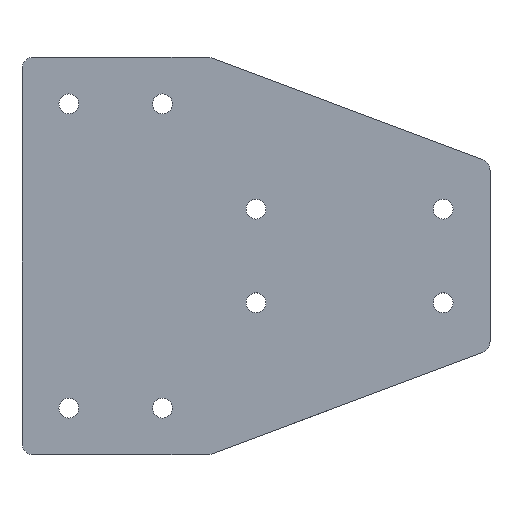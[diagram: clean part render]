
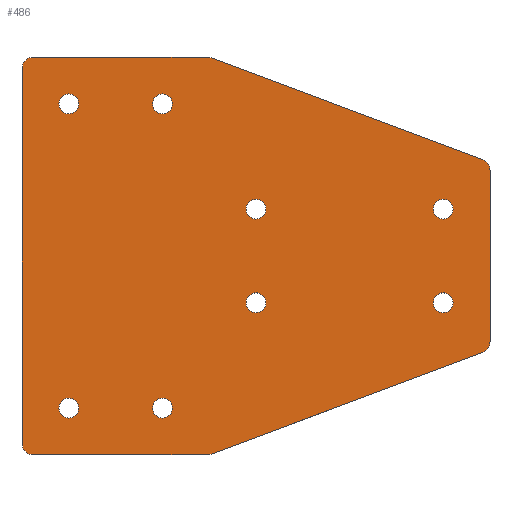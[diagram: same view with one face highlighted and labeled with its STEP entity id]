
A CAD part, top view. The second image highlights one B-rep face of the part: STEP entity #486.
In plain terms, the highlighted planar face has unit normal (0, 0, 1).
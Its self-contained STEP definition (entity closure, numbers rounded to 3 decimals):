
#23=FACE_BOUND('',#91,.T.);
#24=FACE_BOUND('',#92,.T.);
#25=FACE_BOUND('',#93,.T.);
#26=FACE_BOUND('',#94,.T.);
#27=FACE_BOUND('',#95,.T.);
#28=FACE_BOUND('',#96,.T.);
#29=FACE_BOUND('',#97,.T.);
#30=FACE_BOUND('',#98,.T.);
#38=PLANE('',#564);
#60=FACE_OUTER_BOUND('',#90,.T.);
#90=EDGE_LOOP('',(#423,#424,#425,#426,#427,#428,#429,#430,#431,#432,#433,
#434));
#91=EDGE_LOOP('',(#435,#436));
#92=EDGE_LOOP('',(#437,#438));
#93=EDGE_LOOP('',(#439,#440));
#94=EDGE_LOOP('',(#441,#442));
#95=EDGE_LOOP('',(#443,#444));
#96=EDGE_LOOP('',(#445,#446));
#97=EDGE_LOOP('',(#447,#448));
#98=EDGE_LOOP('',(#449,#450));
#109=LINE('',#778,#141);
#117=LINE('',#810,#149);
#120=LINE('',#818,#152);
#123=LINE('',#827,#155);
#129=LINE('',#850,#161);
#130=LINE('',#852,#162);
#141=VECTOR('',#633,10.);
#149=VECTOR('',#663,10.);
#152=VECTOR('',#672,10.);
#155=VECTOR('',#681,10.);
#161=VECTOR('',#709,10.);
#162=VECTOR('',#712,10.);
#163=CIRCLE('',#508,4.25);
#164=CIRCLE('',#509,4.25);
#166=CIRCLE('',#512,4.25);
#167=CIRCLE('',#513,4.25);
#169=CIRCLE('',#516,4.25);
#170=CIRCLE('',#517,4.25);
#172=CIRCLE('',#520,4.25);
#173=CIRCLE('',#521,4.25);
#175=CIRCLE('',#524,4.25);
#176=CIRCLE('',#525,4.25);
#178=CIRCLE('',#528,4.25);
#179=CIRCLE('',#529,4.25);
#181=CIRCLE('',#532,5.);
#190=CIRCLE('',#544,5.);
#191=CIRCLE('',#547,5.);
#192=CIRCLE('',#550,5.);
#193=CIRCLE('',#553,5.);
#194=CIRCLE('',#555,5.);
#195=CIRCLE('',#557,4.25);
#196=CIRCLE('',#558,4.25);
#197=CIRCLE('',#560,4.25);
#198=CIRCLE('',#561,4.25);
#199=VERTEX_POINT('',#717);
#200=VERTEX_POINT('',#718);
#202=VERTEX_POINT('',#725);
#203=VERTEX_POINT('',#726);
#205=VERTEX_POINT('',#733);
#206=VERTEX_POINT('',#734);
#208=VERTEX_POINT('',#741);
#209=VERTEX_POINT('',#742);
#211=VERTEX_POINT('',#749);
#212=VERTEX_POINT('',#750);
#214=VERTEX_POINT('',#757);
#215=VERTEX_POINT('',#758);
#217=VERTEX_POINT('',#765);
#218=VERTEX_POINT('',#766);
#222=VERTEX_POINT('',#776);
#234=VERTEX_POINT('',#804);
#235=VERTEX_POINT('',#808);
#236=VERTEX_POINT('',#812);
#237=VERTEX_POINT('',#816);
#238=VERTEX_POINT('',#820);
#239=VERTEX_POINT('',#821);
#240=VERTEX_POINT('',#826);
#241=VERTEX_POINT('',#830);
#242=VERTEX_POINT('',#834);
#243=VERTEX_POINT('',#838);
#244=VERTEX_POINT('',#839);
#245=VERTEX_POINT('',#844);
#246=VERTEX_POINT('',#845);
#247=EDGE_CURVE('',#199,#200,#163,.T.);
#248=EDGE_CURVE('',#200,#199,#164,.T.);
#251=EDGE_CURVE('',#202,#203,#166,.T.);
#252=EDGE_CURVE('',#203,#202,#167,.T.);
#255=EDGE_CURVE('',#205,#206,#169,.T.);
#256=EDGE_CURVE('',#206,#205,#170,.T.);
#259=EDGE_CURVE('',#208,#209,#172,.T.);
#260=EDGE_CURVE('',#209,#208,#173,.T.);
#263=EDGE_CURVE('',#211,#212,#175,.T.);
#264=EDGE_CURVE('',#212,#211,#176,.T.);
#267=EDGE_CURVE('',#214,#215,#178,.T.);
#268=EDGE_CURVE('',#215,#214,#179,.T.);
#271=EDGE_CURVE('',#217,#218,#181,.T.);
#277=EDGE_CURVE('',#222,#217,#109,.T.);
#290=EDGE_CURVE('',#234,#222,#190,.T.);
#293=EDGE_CURVE('',#235,#234,#117,.T.);
#294=EDGE_CURVE('',#236,#235,#191,.T.);
#297=EDGE_CURVE('',#237,#236,#120,.T.);
#298=EDGE_CURVE('',#238,#239,#192,.T.);
#301=EDGE_CURVE('',#239,#240,#123,.T.);
#303=EDGE_CURVE('',#240,#241,#193,.T.);
#305=EDGE_CURVE('',#242,#237,#194,.T.);
#307=EDGE_CURVE('',#243,#244,#195,.T.);
#308=EDGE_CURVE('',#244,#243,#196,.T.);
#310=EDGE_CURVE('',#245,#246,#197,.T.);
#311=EDGE_CURVE('',#246,#245,#198,.T.);
#313=EDGE_CURVE('',#241,#242,#129,.T.);
#314=EDGE_CURVE('',#218,#238,#130,.T.);
#423=ORIENTED_EDGE('',*,*,#271,.F.);
#424=ORIENTED_EDGE('',*,*,#277,.F.);
#425=ORIENTED_EDGE('',*,*,#290,.F.);
#426=ORIENTED_EDGE('',*,*,#293,.F.);
#427=ORIENTED_EDGE('',*,*,#294,.F.);
#428=ORIENTED_EDGE('',*,*,#297,.F.);
#429=ORIENTED_EDGE('',*,*,#305,.F.);
#430=ORIENTED_EDGE('',*,*,#313,.F.);
#431=ORIENTED_EDGE('',*,*,#303,.F.);
#432=ORIENTED_EDGE('',*,*,#301,.F.);
#433=ORIENTED_EDGE('',*,*,#298,.F.);
#434=ORIENTED_EDGE('',*,*,#314,.F.);
#435=ORIENTED_EDGE('',*,*,#247,.T.);
#436=ORIENTED_EDGE('',*,*,#248,.T.);
#437=ORIENTED_EDGE('',*,*,#251,.T.);
#438=ORIENTED_EDGE('',*,*,#252,.T.);
#439=ORIENTED_EDGE('',*,*,#255,.T.);
#440=ORIENTED_EDGE('',*,*,#256,.T.);
#441=ORIENTED_EDGE('',*,*,#259,.T.);
#442=ORIENTED_EDGE('',*,*,#260,.T.);
#443=ORIENTED_EDGE('',*,*,#263,.T.);
#444=ORIENTED_EDGE('',*,*,#264,.T.);
#445=ORIENTED_EDGE('',*,*,#267,.T.);
#446=ORIENTED_EDGE('',*,*,#268,.T.);
#447=ORIENTED_EDGE('',*,*,#307,.T.);
#448=ORIENTED_EDGE('',*,*,#308,.T.);
#449=ORIENTED_EDGE('',*,*,#310,.T.);
#450=ORIENTED_EDGE('',*,*,#311,.T.);
#486=ADVANCED_FACE('',(#60,#23,#24,#25,#26,#27,#28,#29,#30),#38,.T.);
#508=AXIS2_PLACEMENT_3D('',#719,#569,#570);
#509=AXIS2_PLACEMENT_3D('',#720,#571,#572);
#512=AXIS2_PLACEMENT_3D('',#727,#578,#579);
#513=AXIS2_PLACEMENT_3D('',#728,#580,#581);
#516=AXIS2_PLACEMENT_3D('',#735,#587,#588);
#517=AXIS2_PLACEMENT_3D('',#736,#589,#590);
#520=AXIS2_PLACEMENT_3D('',#743,#596,#597);
#521=AXIS2_PLACEMENT_3D('',#744,#598,#599);
#524=AXIS2_PLACEMENT_3D('',#751,#605,#606);
#525=AXIS2_PLACEMENT_3D('',#752,#607,#608);
#528=AXIS2_PLACEMENT_3D('',#759,#614,#615);
#529=AXIS2_PLACEMENT_3D('',#760,#616,#617);
#532=AXIS2_PLACEMENT_3D('',#767,#623,#624);
#544=AXIS2_PLACEMENT_3D('',#805,#657,#658);
#547=AXIS2_PLACEMENT_3D('',#813,#666,#667);
#550=AXIS2_PLACEMENT_3D('',#822,#675,#676);
#553=AXIS2_PLACEMENT_3D('',#831,#685,#686);
#555=AXIS2_PLACEMENT_3D('',#835,#690,#691);
#557=AXIS2_PLACEMENT_3D('',#840,#695,#696);
#558=AXIS2_PLACEMENT_3D('',#841,#697,#698);
#560=AXIS2_PLACEMENT_3D('',#846,#702,#703);
#561=AXIS2_PLACEMENT_3D('',#847,#704,#705);
#564=AXIS2_PLACEMENT_3D('',#853,#713,#714);
#569=DIRECTION('center_axis',(0.,0.,-1.));
#570=DIRECTION('ref_axis',(1.,0.,0.));
#571=DIRECTION('center_axis',(0.,0.,-1.));
#572=DIRECTION('ref_axis',(1.,0.,0.));
#578=DIRECTION('center_axis',(0.,0.,-1.));
#579=DIRECTION('ref_axis',(1.,0.,0.));
#580=DIRECTION('center_axis',(0.,0.,-1.));
#581=DIRECTION('ref_axis',(1.,0.,0.));
#587=DIRECTION('center_axis',(0.,0.,-1.));
#588=DIRECTION('ref_axis',(1.,0.,0.));
#589=DIRECTION('center_axis',(0.,0.,-1.));
#590=DIRECTION('ref_axis',(1.,0.,0.));
#596=DIRECTION('center_axis',(0.,0.,-1.));
#597=DIRECTION('ref_axis',(1.,0.,0.));
#598=DIRECTION('center_axis',(0.,0.,-1.));
#599=DIRECTION('ref_axis',(1.,0.,0.));
#605=DIRECTION('center_axis',(0.,0.,-1.));
#606=DIRECTION('ref_axis',(1.,0.,0.));
#607=DIRECTION('center_axis',(0.,0.,-1.));
#608=DIRECTION('ref_axis',(1.,0.,0.));
#614=DIRECTION('center_axis',(0.,0.,-1.));
#615=DIRECTION('ref_axis',(1.,0.,0.));
#616=DIRECTION('center_axis',(0.,0.,-1.));
#617=DIRECTION('ref_axis',(1.,0.,0.));
#623=DIRECTION('center_axis',(0.,0.,-1.));
#624=DIRECTION('ref_axis',(0.822,-0.57,0.));
#633=DIRECTION('',(0.,-1.,0.));
#657=DIRECTION('center_axis',(0.,0.,-1.));
#658=DIRECTION('ref_axis',(0.822,0.57,0.));
#663=DIRECTION('',(0.936,-0.351,0.));
#666=DIRECTION('center_axis',(0.,0.,-1.));
#667=DIRECTION('ref_axis',(0.178,0.984,0.));
#672=DIRECTION('',(1.,0.,0.));
#675=DIRECTION('center_axis',(0.,0.,-1.));
#676=DIRECTION('ref_axis',(0.178,-0.984,0.));
#681=DIRECTION('',(-1.,0.,0.));
#685=DIRECTION('center_axis',(0.,0.,-1.));
#686=DIRECTION('ref_axis',(-0.707,-0.707,0.));
#690=DIRECTION('center_axis',(0.,0.,-1.));
#691=DIRECTION('ref_axis',(-0.707,0.707,0.));
#695=DIRECTION('center_axis',(0.,0.,-1.));
#696=DIRECTION('ref_axis',(1.,0.,0.));
#697=DIRECTION('center_axis',(0.,0.,-1.));
#698=DIRECTION('ref_axis',(1.,0.,0.));
#702=DIRECTION('center_axis',(0.,0.,-1.));
#703=DIRECTION('ref_axis',(1.,0.,0.));
#704=DIRECTION('center_axis',(0.,0.,-1.));
#705=DIRECTION('ref_axis',(1.,0.,0.));
#709=DIRECTION('',(0.,1.,0.));
#712=DIRECTION('',(-0.936,-0.351,0.));
#713=DIRECTION('center_axis',(0.,0.,1.));
#714=DIRECTION('ref_axis',(1.,0.,0.));
#717=CARTESIAN_POINT('',(64.25,150.,3.));
#718=CARTESIAN_POINT('',(55.75,150.,3.));
#719=CARTESIAN_POINT('Origin',(60.,150.,3.));
#720=CARTESIAN_POINT('Origin',(60.,150.,3.));
#725=CARTESIAN_POINT('',(64.25,20.,3.));
#726=CARTESIAN_POINT('',(55.75,20.,3.));
#727=CARTESIAN_POINT('Origin',(60.,20.,3.));
#728=CARTESIAN_POINT('Origin',(60.,20.,3.));
#733=CARTESIAN_POINT('',(24.25,150.,3.));
#734=CARTESIAN_POINT('',(15.75,150.,3.));
#735=CARTESIAN_POINT('Origin',(20.,150.,3.));
#736=CARTESIAN_POINT('Origin',(20.,150.,3.));
#741=CARTESIAN_POINT('',(104.25,105.,3.));
#742=CARTESIAN_POINT('',(95.75,105.,3.));
#743=CARTESIAN_POINT('Origin',(100.,105.,3.));
#744=CARTESIAN_POINT('Origin',(100.,105.,3.));
#749=CARTESIAN_POINT('',(104.25,65.,3.));
#750=CARTESIAN_POINT('',(95.75,65.,3.));
#751=CARTESIAN_POINT('Origin',(100.,65.,3.));
#752=CARTESIAN_POINT('Origin',(100.,65.,3.));
#757=CARTESIAN_POINT('',(184.25,105.,3.));
#758=CARTESIAN_POINT('',(175.75,105.,3.));
#759=CARTESIAN_POINT('Origin',(180.,105.,3.));
#760=CARTESIAN_POINT('Origin',(180.,105.,3.));
#765=CARTESIAN_POINT('',(200.,48.465,3.));
#766=CARTESIAN_POINT('',(196.756,43.783,3.));
#767=CARTESIAN_POINT('Origin',(195.,48.465,3.));
#776=CARTESIAN_POINT('',(200.,121.535,3.));
#778=CARTESIAN_POINT('',(200.,45.,3.));
#804=CARTESIAN_POINT('',(196.756,126.217,3.));
#805=CARTESIAN_POINT('Origin',(195.,121.535,3.));
#808=CARTESIAN_POINT('',(80.849,169.682,3.));
#810=CARTESIAN_POINT('',(200.,125.,3.));
#812=CARTESIAN_POINT('',(79.093,170.,3.));
#813=CARTESIAN_POINT('Origin',(79.093,165.,3.));
#816=CARTESIAN_POINT('',(5.,170.,3.));
#818=CARTESIAN_POINT('',(80.,170.,3.));
#820=CARTESIAN_POINT('',(80.849,0.318,3.));
#821=CARTESIAN_POINT('',(79.093,0.,3.));
#822=CARTESIAN_POINT('Origin',(79.093,5.,3.));
#826=CARTESIAN_POINT('',(5.,0.,3.));
#827=CARTESIAN_POINT('',(0.,0.,3.));
#830=CARTESIAN_POINT('',(0.,5.,3.));
#831=CARTESIAN_POINT('Origin',(5.,5.,3.));
#834=CARTESIAN_POINT('',(0.,165.,3.));
#835=CARTESIAN_POINT('Origin',(5.,165.,3.));
#838=CARTESIAN_POINT('',(184.25,65.,3.));
#839=CARTESIAN_POINT('',(175.75,65.,3.));
#840=CARTESIAN_POINT('Origin',(180.,65.,3.));
#841=CARTESIAN_POINT('Origin',(180.,65.,3.));
#844=CARTESIAN_POINT('',(24.25,20.,3.));
#845=CARTESIAN_POINT('',(15.75,20.,3.));
#846=CARTESIAN_POINT('Origin',(20.,20.,3.));
#847=CARTESIAN_POINT('Origin',(20.,20.,3.));
#850=CARTESIAN_POINT('',(0.,170.,3.));
#852=CARTESIAN_POINT('',(80.,0.,3.));
#853=CARTESIAN_POINT('Origin',(87.473,85.,3.));
